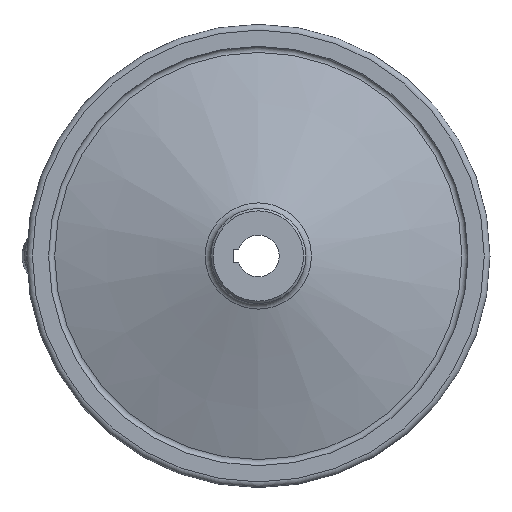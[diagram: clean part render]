
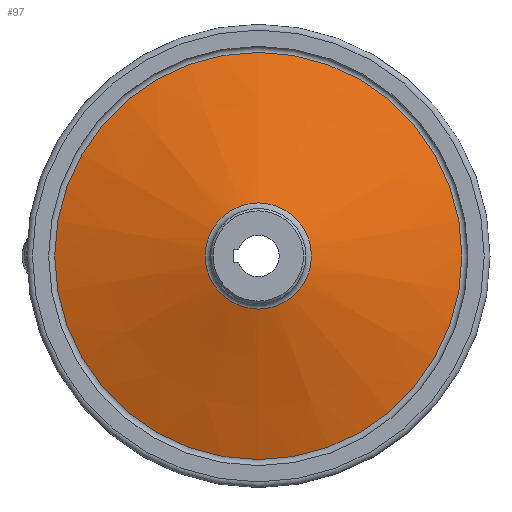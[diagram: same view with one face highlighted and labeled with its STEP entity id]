
A CAD part, left-side view. The second image highlights one B-rep face of the part: STEP entity #97.
In plain terms, the highlighted conical face has half-angle 72 degrees and reference radius 22.918 mm.
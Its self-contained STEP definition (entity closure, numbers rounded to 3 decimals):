
#97 = ADVANCED_FACE( '', ( #170, #171 ), #172, .T. );
#170 = FACE_OUTER_BOUND( '', #260, .T. );
#171 = FACE_BOUND( '', #261, .T. );
#172 = CONICAL_SURFACE( '', #262, 22.918, 1.257 );
#260 = EDGE_LOOP( '', ( #412 ) );
#261 = EDGE_LOOP( '', ( #413 ) );
#262 = AXIS2_PLACEMENT_3D( '', #414, #415, #416 );
#412 = ORIENTED_EDGE( '', *, *, #488, .T. );
#413 = ORIENTED_EDGE( '', *, *, #489, .F. );
#414 = CARTESIAN_POINT( '', ( 12.786, 0., 0. ) );
#415 = DIRECTION( '', ( 1., 0., 0. ) );
#416 = DIRECTION( '', ( 0., 0., -1. ) );
#488 = EDGE_CURVE( '', #552, #552, #553, .T. );
#489 = EDGE_CURVE( '', #554, #554, #555, .T. );
#552 = VERTEX_POINT( '', #634 );
#553 = CIRCLE( '', #635, 87.882 );
#554 = VERTEX_POINT( '', #636 );
#555 = CIRCLE( '', #637, 22.918 );
#634 = CARTESIAN_POINT( '', ( 33.894, 0., 87.882 ) );
#635 = AXIS2_PLACEMENT_3D( '', #720, #721, #722 );
#636 = CARTESIAN_POINT( '', ( 12.786, 0., 22.918 ) );
#637 = AXIS2_PLACEMENT_3D( '', #723, #724, #725 );
#720 = CARTESIAN_POINT( '', ( 33.894, 0., 0. ) );
#721 = DIRECTION( '', ( -1., 0., 0. ) );
#722 = DIRECTION( '', ( 0., 0., 1. ) );
#723 = CARTESIAN_POINT( '', ( 12.786, 0., 0. ) );
#724 = DIRECTION( '', ( -1., 0., 0. ) );
#725 = DIRECTION( '', ( 0., 0., 1. ) );
